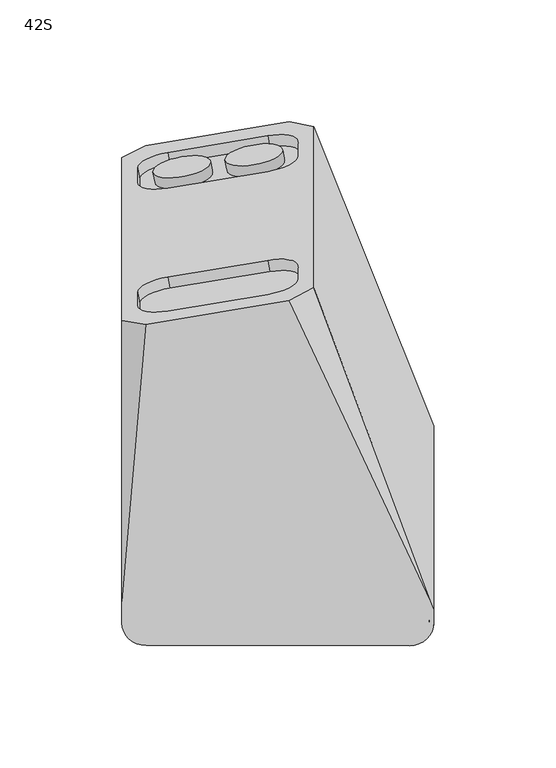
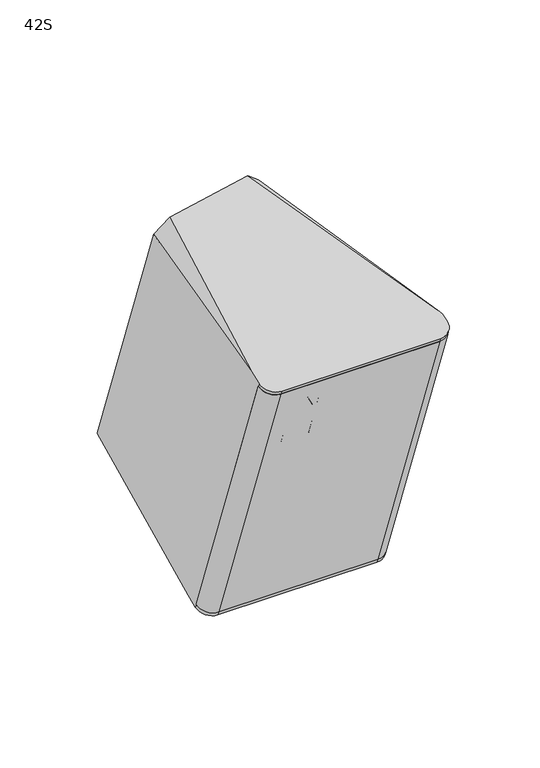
"""IFC4 building model written with IfcOpenShell, lengths in millimetres: proxy geometry, d&b xS-Series 42S Point Source : 42S."""

from ifc_helpers import new_model, si_unit, point, frame, frame_2d, origin, place, context, project, spatial, polyline, circle_curve, ellipse_curve, trimmed, segment, composite_curve, outline, extrude, source, transform, mapped, element, save
from ifc_brep_helpers import plane_surface, cylinder_surface, revolved_surface, advanced_brep


def proxy_42s_64e661f3(model_context):
    return source(origin(), model_context, "Body", "SolidModel", [
        extrude(outline(composite_curve([segment(trimmed(circle_curve(frame_2d((108.0, 8.0)), 8.0), [point((108.0, 0.0))], [point((116.0, 8.0))], True, "CARTESIAN"), True, "CONTINUOUS"), segment(polyline([(116.0, 8.0), (118.0349048, 8.0)]), True, "CONTINUOUS"), segment(trimmed(circle_curve(frame_2d((108.0, 8.0)), 10.0349048), [point((118.0349048, 8.0))], [point((108.0, -2.0349048))], False, "CARTESIAN"), True, "CONTINUOUS"), segment(polyline([(108.0, -2.0349048), (0.0, -2.0349048)]), True, "CONTINUOUS"), segment(trimmed(circle_curve(frame_2d((0.0, 7.9650952)), 10.0), [point((0.0, -2.0349048))], [point((-10.0, 7.9650952))], False, "CARTESIAN"), True, "CONTINUOUS"), segment(polyline([(-10.0, 7.9650952), (-8.0435242, 7.9650952)]), True, "CONTINUOUS"), segment(trimmed(circle_curve(frame_2d((-0.078429, 7.9650952)), 7.9650952), [point((-8.0435242, 7.9650952))], [point((-0.078429, 0.0))], True, "CARTESIAN"), True, "CONTINUOUS"), segment(polyline([(-0.078429, 0.0), (108.0, 0.0)]), True, "CONTINUOUS")], self_intersect=False)), frame((-54.0, -32.9082988, -125.8446629), z_axis=(0.0, -0.3420201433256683, 0.9396926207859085), x_axis=(1.0, 0.0, 0.0)), (0.0, 0.0, 1.0), 214.0),
        extrude(outline(polyline([(0.0, -16.3333333), (0.0, 0.0), (5.0, 0.0), (5.0, -16.3333333), (0.0, -16.3333333)])), frame((-25.3333333, -96.6121231, 43.2304922), z_axis=(0.0, -0.34202014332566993, 0.939692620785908), x_axis=(0.0, 0.939692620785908, 0.34202014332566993)), (0.0, 0.0, 1.0), 16.3333333),
        extrude(outline(polyline([(0.0, -16.3333333), (0.0, 0.0), (5.0, 0.0), (5.0, -16.3333333), (0.0, -16.3333333)])), frame((-25.3333333, -90.2277471, 25.6895633), z_axis=(0.0, -0.34202014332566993, 0.939692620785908), x_axis=(0.0, 0.939692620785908, 0.34202014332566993)), (0.0, 0.0, 1.0), 16.3333333),
        extrude(outline(polyline([(0.0, -16.3333333), (0.0, 0.0), (5.0, 0.0), (5.0, -16.3333333), (0.0, -16.3333333)])), frame((-44.0, -90.2277471, 25.6895633), z_axis=(0.0, -0.34202014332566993, 0.939692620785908), x_axis=(0.0, 0.939692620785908, 0.34202014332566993)), (0.0, 0.0, 1.0), 16.3333333),
        extrude(outline(composite_curve([segment(trimmed(circle_curve(frame_2d((-17.4999999, -26.8333333)), 8.1666667), [point((-25.6666666, -26.8333333))], [point((-9.3333333, -26.8333333))], False, "CARTESIAN"), True, "CONTINUOUS"), segment(trimmed(circle_curve(frame_2d((-17.4999999, -26.8333333)), 8.1666667), [point((-9.3333333, -26.8333333))], [point((-25.6666666, -26.8333333))], False, "CARTESIAN"), True, "CONTINUOUS")], self_intersect=False)), frame((-9.0, -105.3906401, 67.3492694), z_axis=(0.0, 0.939692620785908, 0.3420201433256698), x_axis=(0.0, -0.3420201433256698, 0.939692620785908)), (0.0, 0.0, 1.0), 5.0),
        advanced_brep(
        [(-64.0, -98.6158683, 77.973781), (-64.0, -25.4235576, -123.1204399), (-62.0435242, -25.4235576, -123.1204399), (-62.0435242, -98.6158683, 77.973781), (-54.078429, -32.9082988, -125.8446629), (-54.078429, -106.1006095, 75.249558), (54.0, -32.9082988, -125.8446629), (54.0, -106.1006095, 75.249558), (62.0, -25.3907578, -123.1085017), (62.0, -98.5830685, 77.9857191), (64.0, -25.3907578, -123.1085017), (64.0, -98.5830685, 77.9857191), (64.0, -24.4237461, -125.7653446), (64.0, -18.8860852, -123.6412262), (64.0, -93.9426289, 82.5749327), (64.0, -99.5500802, 80.6425619), (-64.0, -99.5830854, 80.6311881), (-64.0, -90.786634, 83.6625127), (-64.0, 24.4277715, 113.0683053), (-64.0, 91.3916643, -70.9134781), (-64.0, -15.76937, -122.4457264), (-64.0, -24.4563405, -125.777847), (14.6819894, 103.956592, -64.8711794), (14.6819894, 37.9369792, 116.5162158), (62.7855103, -90.786634, 83.6625127), (62.7855103, -15.76937, -122.4457264), (-54.1190905, 22.7447921, 122.7863128), (-54.1190905, 96.3490421, -79.439702), (4.5961827, 106.0168404, -75.7313587), (4.5961827, 32.5344324, 126.1598979), (-54.078429, -108.9646943, 77.3982137), (54.0, -109.0058498, 77.3840312), (54.0, -33.761829, -129.3472167), (-54.078429, -33.761829, -129.3472167), (54.0, -107.9799947, 74.5655177), (-54.078429, -107.9799947, 74.5655177), (-45.1738745, 28.384024, 111.9043171), (-57.4839714, 30.6195769, 99.4157696), (-57.4839714, 36.0561602, 84.4788799), (-45.1738745, 42.3711109, 73.4751118), (-4.2201563, 49.156862, 75.9449232), (8.0899406, 46.9213091, 88.4334707), (8.0899406, 41.4847258, 103.3703604), (-4.2201563, 35.1697751, 114.3741285), (-45.1738745, 78.8483277, -26.7452177), (-57.4839714, 81.0838806, -39.2337651), (-57.4839714, 87.1718391, -55.9602937), (-45.1738745, 93.4867898, -66.9640618), (-4.2201563, 100.2725409, -64.4942504), (8.0899406, 98.036988, -52.005703), (8.0899406, 91.9490294, -35.2791743), (-4.2201563, 85.6340788, -24.2754062), (-44.3056336, 23.7569411, 110.2201966), (-3.3519154, 30.5426922, 112.6900081), (8.9581815, 36.8576429, 101.68624), (8.9581815, 42.2942262, 86.7493502), (-3.3519154, 44.5297791, 74.2608028), (-44.3056336, 37.744028, 71.7909914), (-56.6157306, 31.4290773, 82.7947595), (-56.6157306, 25.992494, 97.7316492), (-44.3056336, 74.2212448, -28.4293381), (-3.3519154, 81.0069959, -25.9595267), (8.9581815, 87.3219466, -36.9632948), (8.9581815, 93.4099051, -53.6898234), (-3.3519154, 95.645458, -66.1783709), (-44.3056336, 88.8597069, -68.6481823), (-56.6157306, 82.5447562, -57.6444142), (-56.6157306, 76.4567977, -40.9178855), (-54.078429, -34.7467847, -126.513817), (54.0, -34.787684, -126.5287032)],
        [
            (0, 1),
            (1, 2),
            (2, 3),
            (3, 0),
            (2, 4, circle_curve(frame((-54.078429, -25.4235576, -123.1204399), z_axis=(0.0, -0.3420201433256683, 0.9396926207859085), x_axis=(-1.0, 0.0, 0.0)), 7.9650952)),
            (4, 5),
            (5, 3, circle_curve(frame((-54.078429, -98.6158683, 77.973781), z_axis=(0.0, 0.3420201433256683, -0.9396926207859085), x_axis=(-1.0, 0.0, 0.0)), 7.9650952)),
            (4, 6),
            (6, 7),
            (7, 5),
            (6, 8, circle_curve(frame((54.0, -25.3907578, -123.1085017), z_axis=(0.0, -0.3420201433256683, 0.9396926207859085), x_axis=(-1.0, 0.0, 0.0)), 8.0)),
            (8, 9),
            (9, 7, circle_curve(frame((54.0, -98.5830685, 77.9857191), z_axis=(0.0, 0.3420201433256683, -0.9396926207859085), x_axis=(-1.0, 0.0, 0.0)), 8.0)),
            (8, 10),
            (10, 11),
            (11, 9),
            (10, 12),
            (12, 13),
            (13, 14),
            (14, 15),
            (15, 11),
            (0, 16),
            (16, 17),
            (17, 18),
            (18, 19),
            (19, 20),
            (20, 21),
            (21, 1),
            (22, 23),
            (23, 24),
            (24, 14),
            (13, 25),
            (25, 22),
            (26, 18),
            (17, 26),
            (19, 27),
            (27, 20),
            (28, 22),
            (25, 28),
            (23, 29),
            (29, 24),
            (29, 26),
            (16, 30, ellipse_curve(frame((-54.078429, -99.5830854, 80.6311881), z_axis=(0.0, -0.3258048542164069, 0.9454370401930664), x_axis=(0.0, -0.9454370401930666, -0.32580485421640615)), 9.9230392, 9.921571)),
            (30, 31),
            (31, 15, ellipse_curve(frame((54.0, -99.5500802, 80.6425619), z_axis=(0.0, -0.3258048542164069, 0.9454370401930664), x_axis=(0.0, -0.9454370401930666, -0.32580485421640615)), 10.0014799, 10.0)),
            (12, 32, ellipse_curve(frame((54.0, -24.4237461, -125.7653446), z_axis=(0.0, 0.3581342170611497, -0.9336701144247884), x_axis=(0.0, 0.9336701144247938, 0.35813421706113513)), 10.0014799, 10.0)),
            (32, 33),
            (33, 21, ellipse_curve(frame((-54.078429, -24.4563405, -125.777847), z_axis=(0.0, 0.3581342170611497, -0.9336701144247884), x_axis=(0.0, 0.9336701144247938, 0.35813421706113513)), 9.9230392, 9.921571)),
            (27, 28),
            (11, 34, circle_curve(frame((54.0, -98.5830685, 77.9857191), z_axis=(0.0, 0.3420201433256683, -0.9396926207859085), x_axis=(-1.0, 0.0, 0.0)), 10.0)),
            (34, 35),
            (35, 0, circle_curve(frame((-54.078429, -98.6158683, 77.973781), z_axis=(0.0, 0.3420201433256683, -0.9396926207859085), x_axis=(-1.0, 0.0, 0.0)), 9.921571)),
            (35, 30),
            (34, 31),
            (36, 37, circle_curve(frame((-45.1738745, 32.6592758, 100.1581593), z_axis=(0.17364817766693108, -0.9254165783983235, -0.33682408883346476), x_axis=(0.9848077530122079, 0.16317591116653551, 0.05939117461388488)), 12.5)),
            (37, 38),
            (38, 39, circle_curve(frame((-45.1738745, 38.0958591, 85.2212696), z_axis=(0.17364817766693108, -0.9254165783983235, -0.33682408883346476), x_axis=(0.9848077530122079, 0.16317591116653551, 0.05939117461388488)), 12.5)),
            (39, 40),
            (40, 41, circle_curve(frame((-4.2201563, 44.8816102, 87.691081), z_axis=(0.17364817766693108, -0.9254165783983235, -0.33682408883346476), x_axis=(0.9848077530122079, 0.16317591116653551, 0.05939117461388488)), 12.5)),
            (41, 42),
            (42, 43, circle_curve(frame((-4.2201563, 39.4450269, 102.6279707), z_axis=(0.17364817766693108, -0.9254165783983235, -0.33682408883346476), x_axis=(0.9848077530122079, 0.16317591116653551, 0.05939117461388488)), 12.5)),
            (43, 36),
            (44, 45, circle_curve(frame((-45.1738745, 83.1235795, -38.4913754), z_axis=(0.17364817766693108, -0.9254165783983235, -0.33682408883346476), x_axis=(0.9848077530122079, 0.16317591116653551, 0.05939117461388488)), 12.5)),
            (45, 46),
            (46, 47, circle_curve(frame((-45.1738745, 89.211538, -55.2179041), z_axis=(0.17364817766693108, -0.9254165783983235, -0.33682408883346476), x_axis=(0.9848077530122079, 0.16317591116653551, 0.05939117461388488)), 12.5)),
            (47, 48),
            (48, 49, circle_curve(frame((-4.2201563, 95.9972891, -52.7480926), z_axis=(0.17364817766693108, -0.9254165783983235, -0.33682408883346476), x_axis=(0.9848077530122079, 0.16317591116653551, 0.05939117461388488)), 12.5)),
            (49, 50),
            (50, 51, circle_curve(frame((-4.2201563, 89.9093306, -36.021564), z_axis=(0.17364817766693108, -0.9254165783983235, -0.33682408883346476), x_axis=(0.9848077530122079, 0.16317591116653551, 0.05939117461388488)), 12.5)),
            (51, 44),
            (52, 53),
            (53, 54, circle_curve(frame((-3.3519154, 34.817944, 100.9438503), z_axis=(-0.17364817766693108, 0.9254165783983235, 0.33682408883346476), x_axis=(0.9848077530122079, 0.16317591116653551, 0.05939117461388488)), 12.5)),
            (54, 55),
            (55, 56, circle_curve(frame((-3.3519154, 40.2545273, 86.0069605), z_axis=(-0.17364817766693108, 0.9254165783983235, 0.33682408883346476), x_axis=(0.9848077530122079, 0.16317591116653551, 0.05939117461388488)), 12.5)),
            (56, 57),
            (57, 58, circle_curve(frame((-44.3056336, 33.4687762, 83.5371491), z_axis=(-0.17364817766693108, 0.9254165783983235, 0.33682408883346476), x_axis=(0.9848077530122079, 0.16317591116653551, 0.05939117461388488)), 12.5)),
            (58, 59),
            (59, 52, circle_curve(frame((-44.3056336, 28.0321929, 98.4740389), z_axis=(-0.17364817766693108, 0.9254165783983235, 0.33682408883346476), x_axis=(0.9848077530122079, 0.16317591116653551, 0.05939117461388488)), 12.5)),
            (60, 61),
            (61, 62, circle_curve(frame((-3.3519154, 85.2822477, -37.7056844), z_axis=(-0.17364817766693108, 0.9254165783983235, 0.33682408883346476), x_axis=(0.9848077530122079, 0.16317591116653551, 0.05939117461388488)), 12.5)),
            (62, 63),
            (63, 64, circle_curve(frame((-3.3519154, 91.3702062, -54.4322131), z_axis=(-0.17364817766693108, 0.9254165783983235, 0.33682408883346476), x_axis=(0.9848077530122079, 0.16317591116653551, 0.05939117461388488)), 12.5)),
            (64, 65),
            (65, 66, circle_curve(frame((-44.3056336, 84.5844551, -56.9020245), z_axis=(-0.17364817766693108, 0.9254165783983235, 0.33682408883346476), x_axis=(0.9848077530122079, 0.16317591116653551, 0.05939117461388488)), 12.5)),
            (66, 67),
            (67, 60, circle_curve(frame((-44.3056336, 78.4964966, -40.1754959), z_axis=(-0.17364817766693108, 0.9254165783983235, 0.33682408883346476), x_axis=(0.9848077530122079, 0.16317591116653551, 0.05939117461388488)), 12.5)),
            (1, 68, circle_curve(frame((-54.078429, -25.4235576, -123.1204399), z_axis=(0.0, -0.3420201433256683, 0.9396926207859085), x_axis=(-1.0, 0.0, 0.0)), 9.921571)),
            (68, 69),
            (69, 10, circle_curve(frame((54.0, -25.3907578, -123.1085017), z_axis=(0.0, -0.3420201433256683, 0.9396926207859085), x_axis=(-1.0, 0.0, 0.0)), 10.0)),
            (33, 68),
            (32, 69),
            (59, 37),
            (36, 52),
            (58, 38),
            (57, 39),
            (56, 40),
            (55, 41),
            (54, 42),
            (53, 43),
            (67, 45),
            (44, 60),
            (66, 46),
            (65, 47),
            (64, 48),
            (63, 49),
            (62, 50),
            (61, 51),
        ],
        [
            plane_surface(frame((-64.0, -98.6158683, 77.973781), z_axis=(0.0, -0.9396926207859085, -0.3420201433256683), x_axis=(0.0, 0.3420201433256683, -0.9396926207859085))),
            cylinder_surface(frame((-54.078429, -25.4235576, -123.1204399), z_axis=(0.0, -0.3420201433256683, 0.9396926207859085), x_axis=(-1.0, 0.0, 0.0)), 7.9650952),
            plane_surface(frame((-54.078429, -106.1006095, 75.249558), z_axis=(0.0, -0.9396926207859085, -0.3420201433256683), x_axis=(0.0, 0.3420201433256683, -0.9396926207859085))),
            cylinder_surface(frame((54.0, -25.3907578, -123.1085017), z_axis=(0.0, -0.3420201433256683, 0.9396926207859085), x_axis=(-1.0, 0.0, 0.0)), 8.0),
            plane_surface(frame((62.0, -98.5830685, 77.9857191), z_axis=(0.0, -0.9396926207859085, -0.3420201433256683), x_axis=(0.0, 0.3420201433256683, -0.9396926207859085))),
            plane_surface(frame((64.0, -98.5830685, 77.9857191), z_axis=(1.0, 0.0, 0.0), x_axis=(0.0, 0.3420201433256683, -0.9396926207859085))),
            plane_surface(frame((-64.0, -93.0105124, 80.0139637), z_axis=(-1.0, 0.0, 0.0), x_axis=(0.0, 0.3420201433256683, -0.9396926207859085))),
            plane_surface(frame((14.5000481, 71.4166392, 25.9935309), z_axis=(0.9397208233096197, 0.3213209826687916, 0.11695127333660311), x_axis=(0.0, -0.3420201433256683, 0.9396926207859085))),
            plane_surface(frame((-57.232233, 36.109136, 123.0000985), z_axis=(-0.7053631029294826, -0.17529705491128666, 0.6868288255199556), x_axis=(-0.7071067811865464, 0.24184476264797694, -0.6644630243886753))),
            plane_surface(frame((-57.232233, 106.7241423, -71.0130367), z_axis=(-0.7053631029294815, 0.3071997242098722, -0.6388201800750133), x_axis=(0.7071067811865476, 0.24184476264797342, -0.6644630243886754))),
            plane_surface(frame((7.7322812, 106.7241423, -71.0130367), z_axis=(0.6719558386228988, 0.5224136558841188, -0.5249374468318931), x_axis=(0.7071067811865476, -0.24184476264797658, 0.6644630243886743))),
            plane_surface(frame((7.7322812, 36.109136, 123.0000985), z_axis=(0.6719558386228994, 0.06276879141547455, 0.7379264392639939), x_axis=(-0.7071067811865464, -0.24184476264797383, 0.6644630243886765))),
            plane_surface(frame((100.0, -129.18282, 70.4308926), z_axis=(0.0, -0.3258048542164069, 0.9454370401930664), x_axis=(-1.0, 0.0, 0.0))),
            plane_surface(frame((100.0, 115.6045833, -72.0537227), z_axis=(0.0, 0.3581342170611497, -0.9336701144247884), x_axis=(-1.0, 0.0, 0.0))),
            plane_surface(frame((-64.0, -98.6158683, 77.973781), z_axis=(0.0, 0.3420201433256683, -0.9396926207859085), x_axis=(0.0, 0.9396926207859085, 0.3420201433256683))),
            cylinder_surface(frame((-54.078429, -98.6158683, 77.973781), z_axis=(0.0, -0.3420201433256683, 0.9396926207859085), x_axis=(-1.0, 0.0, 0.0)), 9.921571),
            plane_surface(frame((-54.078429, -109.9098909, 79.8678637), z_axis=(0.0, -0.9396926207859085, -0.3420201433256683), x_axis=(0.0, 0.3420201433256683, -0.9396926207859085))),
            cylinder_surface(frame((54.0, -98.5830685, 77.9857191), z_axis=(0.0, -0.3420201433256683, 0.9396926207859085), x_axis=(-1.0, 0.0, 0.0)), 10.0),
            plane_surface(frame((-81.2585403, -30.45494, 254.9597515), z_axis=(-0.17364817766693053, 0.9254165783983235, 0.33682408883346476), x_axis=(0.0, 0.3420201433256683, -0.9396926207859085))),
            plane_surface(frame((-31.9955367, 30.0718918, 99.2164286), z_axis=(-0.17364817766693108, 0.9254165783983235, 0.33682408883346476), x_axis=(0.0, -0.3420201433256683, 0.9396926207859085))),
            plane_surface(frame((-64.0, -25.4235576, -123.1204399), z_axis=(0.0, -0.3420201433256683, 0.9396926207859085), x_axis=(0.0, -0.9396926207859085, -0.3420201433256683))),
            cylinder_surface(frame((-54.078429, -23.3714368, -128.7585956), z_axis=(0.0, -0.3420201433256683, 0.9396926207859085), x_axis=(-1.0, 0.0, 0.0)), 9.921571),
            plane_surface(frame((-54.078429, -34.787684, -126.5287032), z_axis=(0.0, -0.9396926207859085, -0.3420201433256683), x_axis=(0.0, 0.3420201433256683, -0.9396926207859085))),
            cylinder_surface(frame((54.0, -23.338637, -128.7466575), z_axis=(0.0, -0.3420201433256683, 0.9396926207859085), x_axis=(-1.0, 0.0, 0.0)), 10.0),
            revolved_surface(polyline([(-31.995536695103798, 30.071891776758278, 99.21642853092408), (-32.86377758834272, 34.69897469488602, 100.90054898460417)]), (-45.1738745, 32.6592758, 100.1581593), (0.17364817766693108, -0.9254165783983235, -0.33682408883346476)),
            plane_surface(frame((-56.6157306, 25.992494, 97.7316492), z_axis=(0.9848077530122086, 0.16317591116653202, 0.05939117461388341), x_axis=(-0.17364817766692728, 0.925416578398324, 0.336824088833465))),
            revolved_surface(polyline([(-31.995536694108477, 35.50847507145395, 84.27953882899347), (-32.8637775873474, 40.13555798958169, 85.96365928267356)]), (-45.1738745, 38.0958591, 85.2212696), (0.17364817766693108, -0.9254165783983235, -0.33682408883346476)),
            plane_surface(frame((-44.3056336, 37.744028, 71.7909914), z_axis=(0.0, -0.3420201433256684, 0.9396926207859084), x_axis=(-0.17364817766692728, 0.925416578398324, 0.336824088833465))),
            revolved_surface(polyline([(8.958181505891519, 42.29422617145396, 86.74935022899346), (8.089940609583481, 46.921309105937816, 88.4334706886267)]), (-4.2201563, 44.8816102, 87.691081), (0.17364817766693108, -0.9254165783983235, -0.33682408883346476)),
            plane_surface(frame((8.9581815, 42.2942262, 86.7493502), z_axis=(-0.9848077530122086, -0.16317591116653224, -0.059391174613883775), x_axis=(-0.17364817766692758, 0.925416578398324, 0.336824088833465))),
            revolved_surface(polyline([(8.958181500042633, 36.85764290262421, 101.68623994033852), (8.089940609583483, 41.48472580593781, 103.37036038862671)]), (-4.2201563, 39.4450269, 102.6279707), (0.17364817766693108, -0.9254165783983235, -0.33682408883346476)),
            plane_surface(frame((-3.3519154, 30.5426922, 112.6900081), z_axis=(0.0, 0.3420201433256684, -0.9396926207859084), x_axis=(-0.17364817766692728, 0.925416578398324, 0.336824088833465))),
            revolved_surface(polyline([(-31.995536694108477, 80.53619547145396, -39.433106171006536), (-32.8637775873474, 85.1632783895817, -37.74898571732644)]), (-45.1738745, 83.1235795, -38.4913754), (0.17364817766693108, -0.9254165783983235, -0.33682408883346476)),
            plane_surface(frame((-56.6157306, 76.4567977, -40.9178855), z_axis=(0.9848077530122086, 0.16317591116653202, 0.059391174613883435), x_axis=(-0.17364817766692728, 0.925416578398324, 0.336824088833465))),
            revolved_surface(polyline([(-31.995536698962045, 86.62415399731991, -56.159634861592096), (-32.86377759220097, 91.25123691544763, -54.47551440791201)]), (-45.1738745, 89.211538, -55.2179041), (0.17364817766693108, -0.9254165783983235, -0.33682408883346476)),
            plane_surface(frame((-44.3056336, 88.8597069, -68.6481823), z_axis=(0.0, -0.3420201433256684, 0.9396926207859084), x_axis=(-0.17364817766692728, 0.925416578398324, 0.336824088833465))),
            revolved_surface(polyline([(8.95818150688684, 93.40990506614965, -53.68982337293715), (8.089940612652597, 98.0369879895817, -52.00570291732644)]), (-4.2201563, 95.9972891, -52.7480926), (0.17364817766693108, -0.9254165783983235, -0.33682408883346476)),
            plane_surface(frame((8.9581815, 93.4099051, -53.6898234), z_axis=(-0.9848077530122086, -0.16317591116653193, -0.059391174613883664), x_axis=(-0.17364817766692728, 0.925416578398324, 0.336824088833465))),
            revolved_surface(polyline([(8.9581815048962, 87.3219465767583, -36.963294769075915), (8.089940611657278, 91.94902949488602, -35.27917431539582)]), (-4.2201563, 89.9093306, -36.021564), (0.17364817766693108, -0.9254165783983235, -0.33682408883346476)),
            plane_surface(frame((-3.3519154, 81.0069959, -25.9595267), z_axis=(0.0, 0.3420201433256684, -0.9396926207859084), x_axis=(-0.17364817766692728, 0.925416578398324, 0.336824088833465))),
        ],
        [
            (0, [[1, 2, 3, 4]]),
            (1, [[-3, 5, 6, 7]]),
            (2, [[-6, 8, 9, 10]]),
            (3, [[-9, 11, 12, 13]]),
            (4, [[-12, 14, 15, 16]]),
            (5, [[-15, 17, 18, 19, 20, 21]]),
            (6, [[-1, 22, 23, 24, 25, 26, 27, 28]]),
            (7, [[29, 30, 31, -19, 32, 33]]),
            (8, [[34, -24, 35]]),
            (9, [[-26, 36, 37]]),
            (10, [[38, -33, 39]]),
            (11, [[-30, 40, 41]]),
            (12, [[-20, -31, -41, 42, -35, -23, 43, 44, 45]]),
            (13, [[-18, 46, 47, 48, -27, -37, 49, -39, -32]]),
            (14, [[50, 51, 52, -4, -7, -10, -13, -16]]),
            (15, [[-52, 53, -43, -22]]),
            (16, [[-51, 54, -44, -53]]),
            (17, [[-50, -21, -45, -54]]),
            (18, [[-25, -34, -42, -40, -29, -38, -49, -36], [55, 56, 57, 58, 59, 60, 61, 62], [63, 64, 65, 66, 67, 68, 69, 70]]),
            (19, [[71, 72, 73, 74, 75, 76, 77, 78]]),
            (19, [[79, 80, 81, 82, 83, 84, 85, 86]]),
            (20, [[87, 88, 89, -14, -11, -8, -5, -2]]),
            (21, [[-87, -28, -48, 90]]),
            (22, [[-88, -90, -47, 91]]),
            (23, [[-89, -91, -46, -17]]),
            (24, [[-78, 92, -55, 93]]),
            (25, [[-77, 94, -56, -92]]),
            (26, [[-76, 95, -57, -94]]),
            (27, [[-75, 96, -58, -95]]),
            (28, [[-74, 97, -59, -96]]),
            (29, [[-73, 98, -60, -97]]),
            (30, [[-72, 99, -61, -98]]),
            (31, [[-71, -93, -62, -99]]),
            (32, [[-86, 100, -63, 101]]),
            (33, [[-85, 102, -64, -100]]),
            (34, [[-84, 103, -65, -102]]),
            (35, [[-83, 104, -66, -103]]),
            (36, [[-82, 105, -67, -104]]),
            (37, [[-81, 106, -68, -105]]),
            (38, [[-80, 107, -69, -106]]),
            (39, [[-79, -101, -70, -107]]),
        ],
    ),
        extrude(outline(composite_curve([segment(trimmed(circle_curve(frame_2d((0.0, -12.0)), 12.0), [point((0.0, -24.0))], [point((0.0, 0.0))], False, "CARTESIAN"), True, "CONTINUOUS"), segment(trimmed(circle_curve(frame_2d((0.0, -12.0)), 12.0), [point((0.0, 0.0))], [point((0.0, -24.0))], False, "CARTESIAN"), True, "CONTINUOUS")], self_intersect=False)), frame((-50.3782035, 80.995041, -50.170877), z_axis=(-0.17364817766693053, 0.9254165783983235, 0.33682408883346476), x_axis=(0.0, 0.3420201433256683, -0.9396926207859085)), (0.0, 0.0, 1.0), 5.0),
        extrude(outline(composite_curve([segment(trimmed(circle_curve(frame_2d((0.0, -42.0)), 12.0), [point((0.0, -54.0))], [point((1e-07, -30.0))], False, "CARTESIAN"), True, "CONTINUOUS"), segment(trimmed(circle_curve(frame_2d((0.0, -42.0)), 12.0), [point((1e-07, -30.0))], [point((0.0, -54.0))], False, "CARTESIAN"), True, "CONTINUOUS")], self_intersect=False)), frame((-50.3782035, 80.995041, -50.170877), z_axis=(-0.17364817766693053, 0.9254165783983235, 0.33682408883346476), x_axis=(0.0, 0.3420201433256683, -0.9396926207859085)), (0.0, 0.0, 1.0), 5.0),
    ])


if __name__ == "__main__":
    model = new_model("IFC4")
    model_context = context("Model", 3, world=origin())
    ifc_project = project(units=[si_unit("LENGTHUNIT", "METRE", prefix="MILLI")], contexts=[model_context])
    site = spatial("IfcSite", under=ifc_project)
    building = spatial("IfcBuilding", under=site)
    placement = place(None, origin())
    proxy_42s_shape = proxy_42s_64e661f3(model_context)
    element("IfcBuildingElementProxy", 1, Name="d&b xS-Series 42S Point Source : 42S", ObjectType="d&b xS-Series 42S Point Source : 42S", at=placement, inside=building, context=model_context, shape_type="MappedRepresentation", body=[
        mapped(proxy_42s_shape, transform((0.0, 0.0, 0.0), x_axis=(1.0, 0.0, 0.0), y_axis=(0.0, 1.0, 0.0), z_axis=(0.0, 0.0, 1.0))),
    ])
    save(model, "model.ifc")
